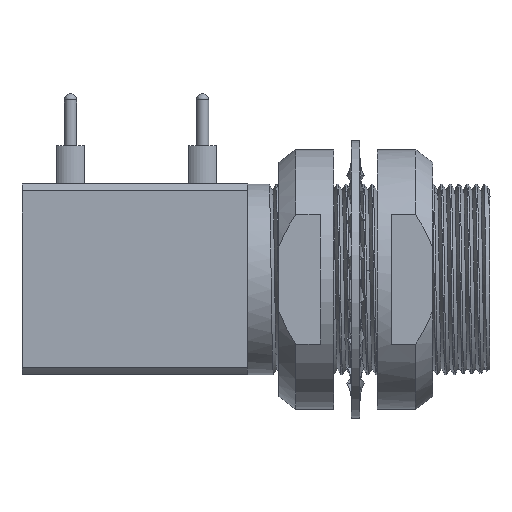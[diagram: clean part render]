
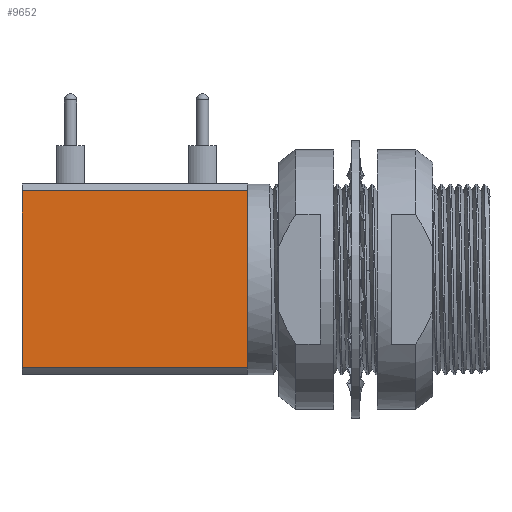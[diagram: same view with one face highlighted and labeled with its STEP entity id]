
A CAD part, top view. The second image highlights one B-rep face of the part: STEP entity #9652.
In plain terms, the highlighted planar face has unit normal (0, 0, 1).
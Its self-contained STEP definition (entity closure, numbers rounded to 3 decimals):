
#831 = FACE_OUTER_BOUND ( 'NONE', #9316, .T. ) ;
#1325 = VERTEX_POINT ( 'NONE', #27752 ) ;
#1906 = VECTOR ( 'NONE', #23037, 1000. ) ;
#2079 = LINE ( 'NONE', #21560, #11269 ) ;
#2679 = EDGE_CURVE ( 'NONE', #14349, #1325, #12176, .T. ) ;
#3294 = ORIENTED_EDGE ( 'NONE', *, *, #14001, .F. ) ;
#7263 = LINE ( 'NONE', #15895, #1906 ) ;
#7584 = VECTOR ( 'NONE', #24348, 1000. ) ;
#8529 = ORIENTED_EDGE ( 'NONE', *, *, #13836, .T. ) ;
#9043 = CARTESIAN_POINT ( 'NONE',  ( 2.5, 0., 5.5 ) ) ;
#9262 = ORIENTED_EDGE ( 'NONE', *, *, #28705, .F. ) ;
#9316 = EDGE_LOOP ( 'NONE', ( #32258, #14029, #8529, #3294, #9262 ) ) ;
#9652 = ADVANCED_FACE ( 'NONE', ( #831 ), #24286, .T. ) ;
#10036 = VERTEX_POINT ( 'NONE', #20111 ) ;
#10986 = DIRECTION ( 'NONE',  ( 0., 0., 1. ) ) ;
#11162 = CARTESIAN_POINT ( 'NONE',  ( -10.5, 0., 5.5 ) ) ;
#11269 = VECTOR ( 'NONE', #22205, 1000. ) ;
#11321 = CARTESIAN_POINT ( 'NONE',  ( -4., 0., 5.5 ) ) ;
#12176 = LINE ( 'NONE', #25302, #17054 ) ;
#13390 = CARTESIAN_POINT ( 'NONE',  ( 2.5, -5.099, 5.5 ) ) ;
#13836 = EDGE_CURVE ( 'NONE', #29508, #10036, #16159, .T. ) ;
#14001 = EDGE_CURVE ( 'NONE', #19132, #10036, #2079, .T. ) ;
#14029 = ORIENTED_EDGE ( 'NONE', *, *, #15367, .T. ) ;
#14222 = LINE ( 'NONE', #29825, #7584 ) ;
#14349 = VERTEX_POINT ( 'NONE', #9043 ) ;
#15367 = EDGE_CURVE ( 'NONE', #1325, #29508, #14222, .T. ) ;
#15895 = CARTESIAN_POINT ( 'NONE',  ( 2.5, -2.75, 5.5 ) ) ;
#16159 = LINE ( 'NONE', #11162, #18156 ) ;
#17054 = VECTOR ( 'NONE', #22308, 1000. ) ;
#18156 = VECTOR ( 'NONE', #23798, 1000. ) ;
#19132 = VERTEX_POINT ( 'NONE', #13390 ) ;
#20111 = CARTESIAN_POINT ( 'NONE',  ( -10.5, -5.099, 5.5 ) ) ;
#21560 = CARTESIAN_POINT ( 'NONE',  ( -10.76, -5.099, 5.5 ) ) ;
#22205 = DIRECTION ( 'NONE',  ( -1., 0., 0. ) ) ;
#22308 = DIRECTION ( 'NONE',  ( 0., 1., 0. ) ) ;
#22572 = AXIS2_PLACEMENT_3D ( 'NONE', #11321, #10986, #29106 ) ;
#23037 = DIRECTION ( 'NONE',  ( 0., -1., 0. ) ) ;
#23798 = DIRECTION ( 'NONE',  ( 0., -1., 0. ) ) ;
#24286 = PLANE ( 'NONE',  #22572 ) ;
#24348 = DIRECTION ( 'NONE',  ( -1., 0., 0. ) ) ;
#25302 = CARTESIAN_POINT ( 'NONE',  ( 2.5, 0., 5.5 ) ) ;
#26151 = CARTESIAN_POINT ( 'NONE',  ( -10.5, 5.099, 5.5 ) ) ;
#27752 = CARTESIAN_POINT ( 'NONE',  ( 2.5, 5.099, 5.5 ) ) ;
#28705 = EDGE_CURVE ( 'NONE', #14349, #19132, #7263, .T. ) ;
#29106 = DIRECTION ( 'NONE',  ( 1., 0., 0. ) ) ;
#29508 = VERTEX_POINT ( 'NONE', #26151 ) ;
#29825 = CARTESIAN_POINT ( 'NONE',  ( -4., 5.099, 5.5 ) ) ;
#32258 = ORIENTED_EDGE ( 'NONE', *, *, #2679, .T. ) ;
